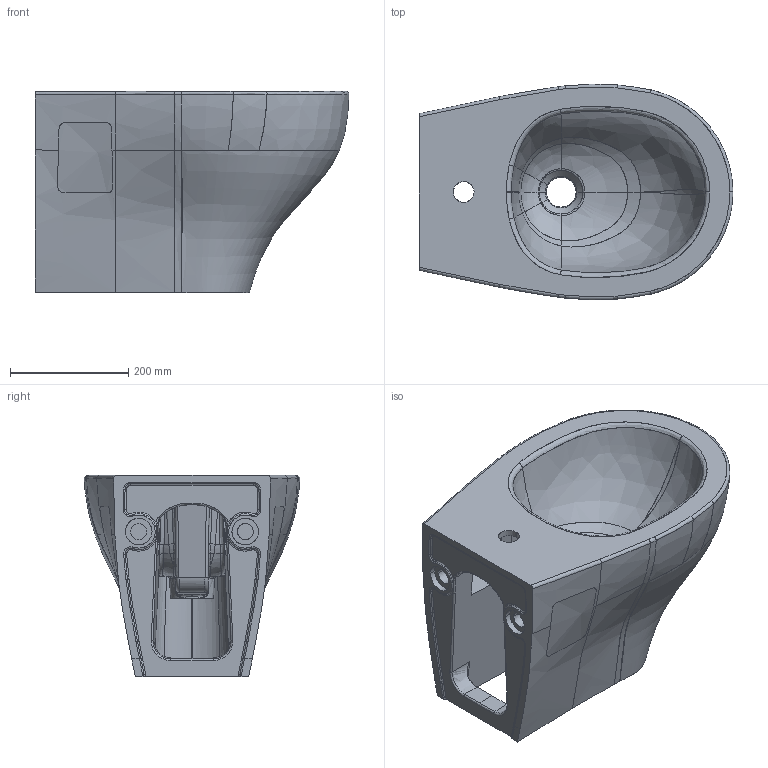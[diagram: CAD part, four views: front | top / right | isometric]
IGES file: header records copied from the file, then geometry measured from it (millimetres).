
Start section: START RECORD GO HERE.
Global section: file name: 7216.igs; native system: DASSAULT SYSTEMES CATIA V5 R19 - www.3ds.com; preprocessor: CATIA Version 5 Release 19 SP 5 ; author: gioge; organization: LAPTOP-G94B6G74; date: 20201002.170239; units: millimetre
Bounding box: 530.05 x 364.17 x 340 mm (x, y, z)
Surface area: 1021433.7 mm2 (no closed solid volume)
Topology: 0 solids, 0 shells, 328 faces, 1704 edges, 1692 vertices
Faces by surface type: bspline 241, revolution 62, plane 25
